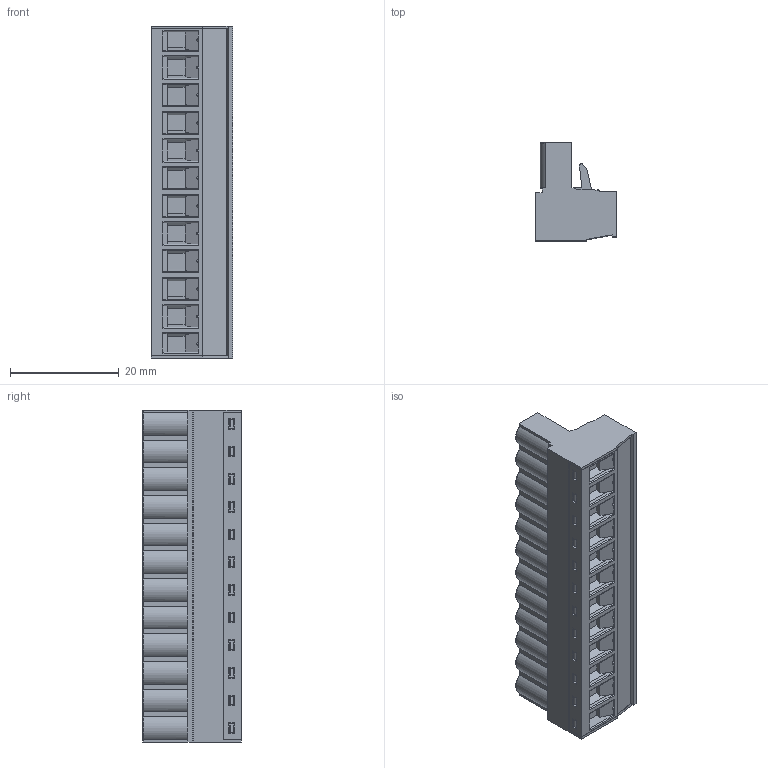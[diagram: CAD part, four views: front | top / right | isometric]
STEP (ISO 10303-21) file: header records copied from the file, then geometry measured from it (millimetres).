
FILE_DESCRIPTION (( 'STEP AP203' ), '1' );
FILE_NAME ('BR8F1-12.STEP', '2020-03-04T01:49:32', ( '' ), ( '' ), 'SwSTEP 2.0', 'SolidWorks 2019', '' );
FILE_SCHEMA (( 'CONFIG_CONTROL_DESIGN' ));
Length unit declared in the file: millimetre
Products named in the file (1): BR8F1-12
Bounding box: 15.05 x 18.1 x 60.96 mm (x, y, z)
Volume: 9689 mm3; surface area: 8070.9 mm2
Topology: 1 solids, 1 shells, 1567 faces, 4169 edges, 2676 vertices
Faces by surface type: plane 965, cylinder 386, cone 96, torus 72, sphere 48
Entity records: 49459 total; most frequent: CARTESIAN_POINT 9988, ORIENTED_EDGE 8338, DIRECTION 8011, EDGE_CURVE 4169, VECTOR 3027, LINE 3027, VERTEX_POINT 2676, AXIS2_PLACEMENT_3D 2492
